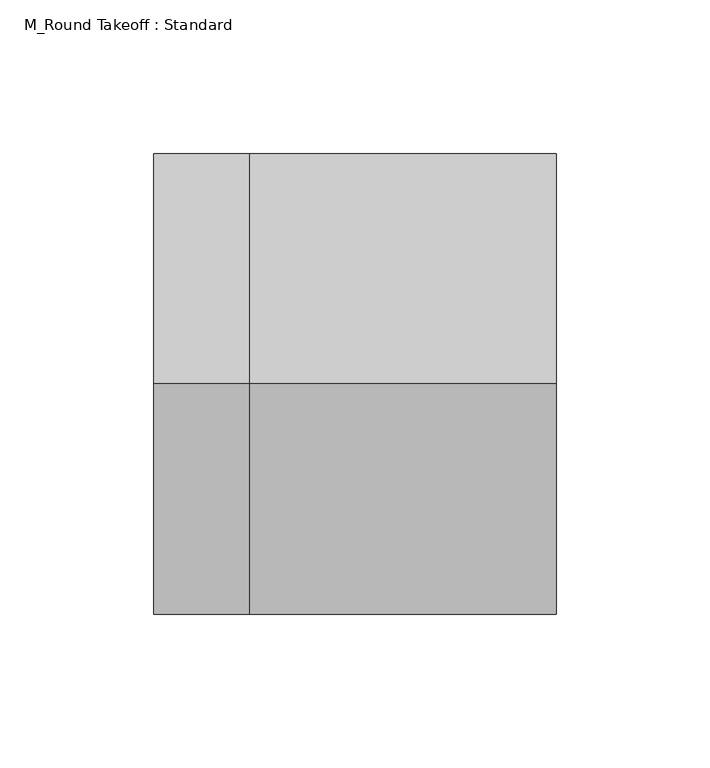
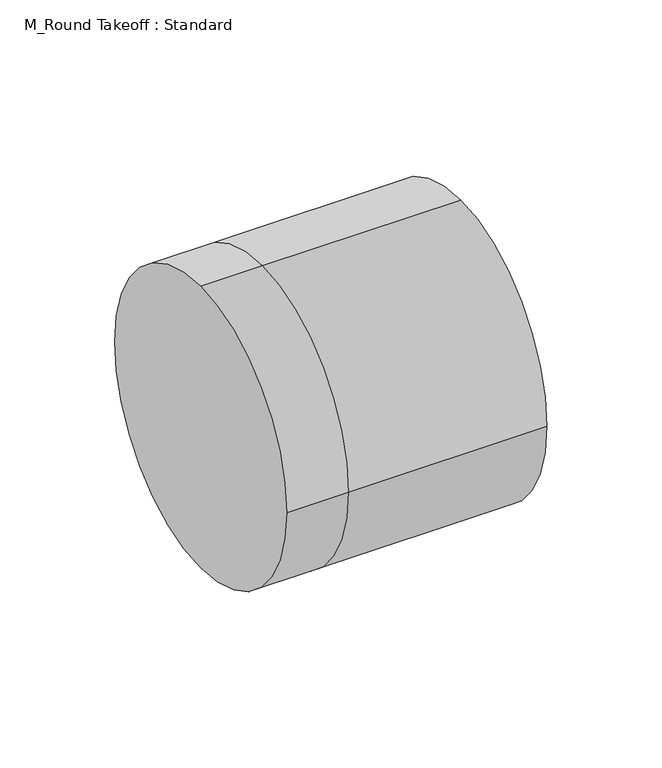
"""IFC4 building model written with IfcOpenShell, lengths in millimetres: duct fitting geometry, M_Round Takeoff : Standard."""

from ifc_helpers import new_model, si_unit, frame, origin, place, context, project, spatial, circle_curve, source, transform, mapped, element, save
from ifc_brep_helpers import plane_surface, cylinder_surface, advanced_brep


def m_round_takeoff_standard_ab57c574(model_context):
    return source(origin(), model_context, "Body", "AdvancedBrep", [
        advanced_brep(
        [(-31.096, 0.0, 75.0), (-31.096, 75.0, 0.0), (-31.096, 0.0, -75.0), (-31.096, -75.0, 0.0), (0.0, -75.0, 0.0), (0.0, 0.0, 75.0), (0.0, 0.0, -75.0), (0.0, 75.0, 0.0), (100.0, 0.0, 75.0), (100.0, -75.0, 0.0), (100.0, 0.0, -75.0), (100.0, 75.0, 0.0)],
        [
            (0, 1, circle_curve(frame((-31.096, 0.0, 0.0), z_axis=(-1.0, 0.0, 0.0), x_axis=(0.0, -1.0, 0.0)), 75.0)),
            (1, 2, circle_curve(frame((-31.096, 0.0, 0.0), z_axis=(-1.0, 0.0, 0.0), x_axis=(0.0, -1.0, 0.0)), 75.0)),
            (2, 3, circle_curve(frame((-31.096, 0.0, 0.0), z_axis=(-1.0, 0.0, 0.0), x_axis=(0.0, -1.0, 0.0)), 75.0)),
            (3, 0, circle_curve(frame((-31.096, 0.0, 0.0), z_axis=(-1.0, 0.0, 0.0), x_axis=(0.0, -1.0, 0.0)), 75.0)),
            (3, 4),
            (4, 5, circle_curve(frame((0.0, 0.0, 0.0), z_axis=(-1.0, 0.0, 0.0), x_axis=(0.0, -1.0, 0.0)), 75.0)),
            (5, 0),
            (2, 6),
            (6, 4, circle_curve(frame((0.0, 0.0, 0.0), z_axis=(-1.0, 0.0, 0.0), x_axis=(0.0, -1.0, 0.0)), 75.0)),
            (1, 7),
            (7, 6, circle_curve(frame((0.0, 0.0, 0.0), z_axis=(-1.0, 0.0, 0.0), x_axis=(0.0, -1.0, 0.0)), 75.0)),
            (5, 7, circle_curve(frame((0.0, 0.0, 0.0), z_axis=(-1.0, 0.0, 0.0), x_axis=(0.0, -1.0, 0.0)), 75.0)),
            (8, 9, circle_curve(frame((100.0, 0.0, 0.0), z_axis=(1.0, 0.0, 0.0), x_axis=(0.0, -1.0, 0.0)), 75.0)),
            (9, 10, circle_curve(frame((100.0, 0.0, 0.0), z_axis=(1.0, 0.0, 0.0), x_axis=(0.0, -1.0, 0.0)), 75.0)),
            (10, 11, circle_curve(frame((100.0, 0.0, 0.0), z_axis=(1.0, 0.0, 0.0), x_axis=(0.0, -1.0, 0.0)), 75.0)),
            (11, 8, circle_curve(frame((100.0, 0.0, 0.0), z_axis=(1.0, 0.0, 0.0), x_axis=(0.0, -1.0, 0.0)), 75.0)),
            (8, 5),
            (4, 9),
            (6, 10),
            (7, 11),
        ],
        [
            plane_surface(frame((-31.096, 0.0, 0.0), z_axis=(-1.0, 0.0, 0.0), x_axis=(0.0, 0.0, 1.0))),
            cylinder_surface(frame((-31.096, 0.0, 0.0), z_axis=(-1.0, 0.0, 0.0), x_axis=(0.0, -1.0, 0.0)), 75.0),
            plane_surface(frame((100.0, 0.0, 0.0), z_axis=(1.0, 0.0, 0.0), x_axis=(0.0, 0.0, 1.0))),
            cylinder_surface(frame((0.0, 0.0, 0.0), z_axis=(-1.0, 0.0, 0.0), x_axis=(0.0, -1.0, 0.0)), 75.0),
        ],
        [
            (0, [[1, 2, 3, 4]]),
            (1, [[5, 6, 7, -4]]),
            (1, [[8, 9, -5, -3]]),
            (1, [[10, 11, -8, -2]]),
            (1, [[-7, 12, -10, -1]]),
            (2, [[13, 14, 15, 16]]),
            (3, [[17, -6, 18, -13]]),
            (3, [[-18, -9, 19, -14]]),
            (3, [[-19, -11, 20, -15]]),
            (3, [[-20, -12, -17, -16]]),
        ],
    ),
        advanced_brep(
        [(100.0, 0.0, 75.0), (100.0, -75.0, 0.0), (100.0, 0.0, -75.0), (100.0, 75.0, 0.0), (0.0, 0.0, 75.0), (0.0, -75.0, 0.0), (0.0, 0.0, -75.0), (0.0, 75.0, 0.0), (-31.096, 0.0, 75.0), (-31.096, 75.0, 0.0), (-31.096, 0.0, -75.0), (-31.096, -75.0, 0.0)],
        [
            (0, 1, circle_curve(frame((100.0, 0.0, 0.0), z_axis=(1.0, 0.0, 0.0), x_axis=(0.0, -1.0, 0.0)), 75.0)),
            (1, 2, circle_curve(frame((100.0, 0.0, 0.0), z_axis=(1.0, 0.0, 0.0), x_axis=(0.0, -1.0, 0.0)), 75.0)),
            (2, 3, circle_curve(frame((100.0, 0.0, 0.0), z_axis=(1.0, 0.0, 0.0), x_axis=(0.0, -1.0, 0.0)), 75.0)),
            (3, 0, circle_curve(frame((100.0, 0.0, 0.0), z_axis=(1.0, 0.0, 0.0), x_axis=(0.0, -1.0, 0.0)), 75.0)),
            (0, 4),
            (4, 5, circle_curve(frame((0.0, 0.0, 0.0), z_axis=(1.0, 0.0, 0.0), x_axis=(0.0, -1.0, 0.0)), 75.0)),
            (5, 1),
            (5, 6, circle_curve(frame((0.0, 0.0, 0.0), z_axis=(1.0, 0.0, 0.0), x_axis=(0.0, -1.0, 0.0)), 75.0)),
            (6, 2),
            (6, 7, circle_curve(frame((0.0, 0.0, 0.0), z_axis=(1.0, 0.0, 0.0), x_axis=(0.0, -1.0, 0.0)), 75.0)),
            (7, 3),
            (7, 4, circle_curve(frame((0.0, 0.0, 0.0), z_axis=(1.0, 0.0, 0.0), x_axis=(0.0, -1.0, 0.0)), 75.0)),
            (8, 9, circle_curve(frame((-31.096, 0.0, 0.0), z_axis=(-1.0, 0.0, 0.0), x_axis=(0.0, -1.0, 0.0)), 75.0)),
            (9, 10, circle_curve(frame((-31.096, 0.0, 0.0), z_axis=(-1.0, 0.0, 0.0), x_axis=(0.0, -1.0, 0.0)), 75.0)),
            (10, 11, circle_curve(frame((-31.096, 0.0, 0.0), z_axis=(-1.0, 0.0, 0.0), x_axis=(0.0, -1.0, 0.0)), 75.0)),
            (11, 8, circle_curve(frame((-31.096, 0.0, 0.0), z_axis=(-1.0, 0.0, 0.0), x_axis=(0.0, -1.0, 0.0)), 75.0)),
            (11, 5),
            (4, 8),
            (10, 6),
            (9, 7),
        ],
        [
            plane_surface(frame((100.0, 0.0, 0.0), z_axis=(1.0, 0.0, 0.0), x_axis=(0.0, 0.0, 1.0))),
            cylinder_surface(frame((0.0, 0.0, 0.0), z_axis=(-1.0, 0.0, 0.0), x_axis=(0.0, -1.0, 0.0)), 75.0),
            plane_surface(frame((-31.096, 0.0, 0.0), z_axis=(-1.0, 0.0, 0.0), x_axis=(0.0, 0.0, 1.0))),
            cylinder_surface(frame((-31.096, 0.0, 0.0), z_axis=(-1.0, 0.0, 0.0), x_axis=(0.0, -1.0, 0.0)), 75.0),
        ],
        [
            (0, [[1, 2, 3, 4]]),
            (1, [[5, 6, 7, -1]]),
            (1, [[-7, 8, 9, -2]]),
            (1, [[-9, 10, 11, -3]]),
            (1, [[-11, 12, -5, -4]]),
            (2, [[13, 14, 15, 16]]),
            (3, [[17, -6, 18, -16]]),
            (3, [[19, -8, -17, -15]]),
            (3, [[20, -10, -19, -14]]),
            (3, [[-18, -12, -20, -13]]),
        ],
    ),
        advanced_brep(
        [(-31.096, 0.0, 75.0), (-31.096, 75.0, 0.0), (-31.096, 0.0, -75.0), (-31.096, -75.0, 0.0), (0.0, -75.0, 0.0), (0.0, 0.0, 75.0), (0.0, 0.0, -75.0), (0.0, 75.0, 0.0), (100.0, 0.0, 75.0), (100.0, -75.0, 0.0), (100.0, 0.0, -75.0), (100.0, 75.0, 0.0)],
        [
            (0, 1, circle_curve(frame((-31.096, 0.0, 0.0), z_axis=(-1.0, 0.0, 0.0), x_axis=(0.0, -1.0, 0.0)), 75.0)),
            (1, 2, circle_curve(frame((-31.096, 0.0, 0.0), z_axis=(-1.0, 0.0, 0.0), x_axis=(0.0, -1.0, 0.0)), 75.0)),
            (2, 3, circle_curve(frame((-31.096, 0.0, 0.0), z_axis=(-1.0, 0.0, 0.0), x_axis=(0.0, -1.0, 0.0)), 75.0)),
            (3, 0, circle_curve(frame((-31.096, 0.0, 0.0), z_axis=(-1.0, 0.0, 0.0), x_axis=(0.0, -1.0, 0.0)), 75.0)),
            (3, 4),
            (4, 5, circle_curve(frame((0.0, 0.0, 0.0), z_axis=(-1.0, 0.0, 0.0), x_axis=(0.0, -1.0, 0.0)), 75.0)),
            (5, 0),
            (2, 6),
            (6, 4, circle_curve(frame((0.0, 0.0, 0.0), z_axis=(-1.0, 0.0, 0.0), x_axis=(0.0, -1.0, 0.0)), 75.0)),
            (1, 7),
            (7, 6, circle_curve(frame((0.0, 0.0, 0.0), z_axis=(-1.0, 0.0, 0.0), x_axis=(0.0, -1.0, 0.0)), 75.0)),
            (5, 7, circle_curve(frame((0.0, 0.0, 0.0), z_axis=(-1.0, 0.0, 0.0), x_axis=(0.0, -1.0, 0.0)), 75.0)),
            (8, 9, circle_curve(frame((100.0, 0.0, 0.0), z_axis=(1.0, 0.0, 0.0), x_axis=(0.0, -1.0, 0.0)), 75.0)),
            (9, 10, circle_curve(frame((100.0, 0.0, 0.0), z_axis=(1.0, 0.0, 0.0), x_axis=(0.0, -1.0, 0.0)), 75.0)),
            (10, 11, circle_curve(frame((100.0, 0.0, 0.0), z_axis=(1.0, 0.0, 0.0), x_axis=(0.0, -1.0, 0.0)), 75.0)),
            (11, 8, circle_curve(frame((100.0, 0.0, 0.0), z_axis=(1.0, 0.0, 0.0), x_axis=(0.0, -1.0, 0.0)), 75.0)),
            (8, 5),
            (4, 9),
            (6, 10),
            (7, 11),
        ],
        [
            plane_surface(frame((-31.096, 0.0, 0.0), z_axis=(-1.0, 0.0, 0.0), x_axis=(0.0, 0.0, 1.0))),
            cylinder_surface(frame((-31.096, 0.0, 0.0), z_axis=(-1.0, 0.0, 0.0), x_axis=(0.0, -1.0, 0.0)), 75.0),
            plane_surface(frame((100.0, 0.0, 0.0), z_axis=(1.0, 0.0, 0.0), x_axis=(0.0, 0.0, 1.0))),
            cylinder_surface(frame((0.0, 0.0, 0.0), z_axis=(-1.0, 0.0, 0.0), x_axis=(0.0, -1.0, 0.0)), 75.0),
        ],
        [
            (0, [[1, 2, 3, 4]]),
            (1, [[5, 6, 7, -4]]),
            (1, [[8, 9, -5, -3]]),
            (1, [[10, 11, -8, -2]]),
            (1, [[-7, 12, -10, -1]]),
            (2, [[13, 14, 15, 16]]),
            (3, [[17, -6, 18, -13]]),
            (3, [[-18, -9, 19, -14]]),
            (3, [[-19, -11, 20, -15]]),
            (3, [[-20, -12, -17, -16]]),
        ],
    ),
    ])


if __name__ == "__main__":
    model = new_model("IFC4")
    model_context = context("Model", 3, world=origin())
    ifc_project = project(units=[si_unit("LENGTHUNIT", "METRE", prefix="MILLI")], contexts=[model_context])
    site = spatial("IfcSite", under=ifc_project)
    building = spatial("IfcBuilding", under=site)
    placement = place(None, origin())
    m_round_takeoff_standard_shape = m_round_takeoff_standard_ab57c574(model_context)
    element("IfcDuctFitting", 1, ObjectType="M_Round Takeoff : Standard", at=placement, inside=building, context=model_context, shape_type="MappedRepresentation", body=[
        mapped(m_round_takeoff_standard_shape, transform((0.0, 0.0, 0.0), x_axis=(1.0, 0.0, 0.0), y_axis=(0.0, 1.0, 0.0), z_axis=(0.0, 0.0, 1.0))),
    ])
    save(model, "model.ifc")
